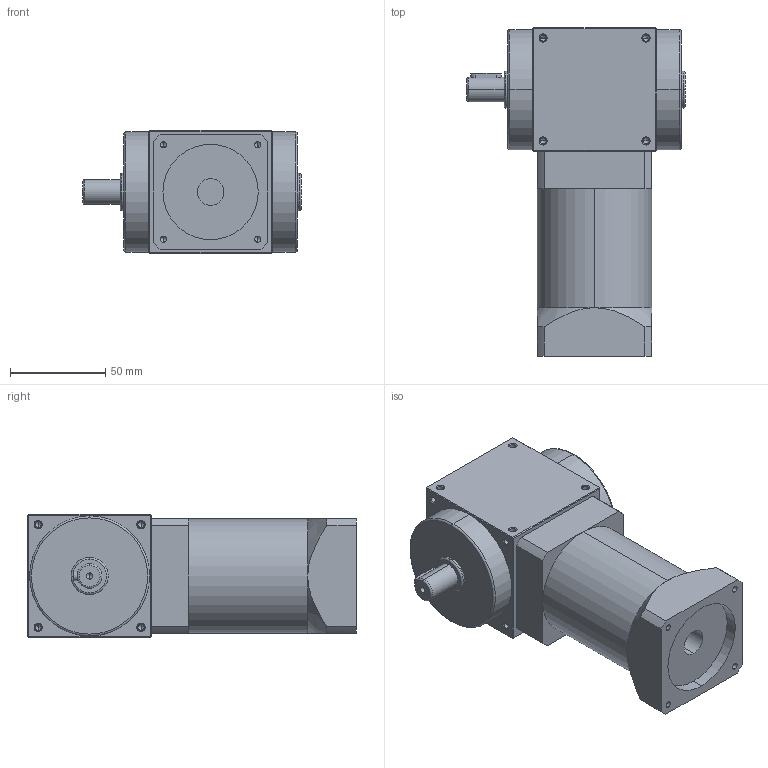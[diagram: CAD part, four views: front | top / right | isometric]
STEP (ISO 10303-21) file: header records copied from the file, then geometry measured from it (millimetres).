
FILE_DESCRIPTION (( 'STEP AP214' ), '1' );
FILE_NAME ('AT065-FL1-L2-400W.STEP', '2019-08-27T08:23:38', ( 'User' ), ( 'Far123' ), 'SwSTEP 2.0', 'SolidWorks 2015', '' );
FILE_SCHEMA (( 'AUTOMOTIVE_DESIGN' ));
Length unit declared in the file: millimetre
Products named in the file (1): AT065-FL1-L2-400W
Bounding box: 114.5 x 172.5 x 65 mm (x, y, z)
Volume: 676518.6 mm3; surface area: 58534.3 mm2
Topology: 1 solids, 2 shells, 277 faces, 684 edges, 371 vertices
Faces by surface type: cylinder 118, cone 96, plane 53, torus 10
Entity records: 8882 total; most frequent: CARTESIAN_POINT 1803, DIRECTION 1288, ORIENTED_EDGE 1268, EDGE_CURVE 634, AXIS2_PLACEMENT_3D 498, VERTEX_POINT 371, EDGE_LOOP 311, LINE 292
